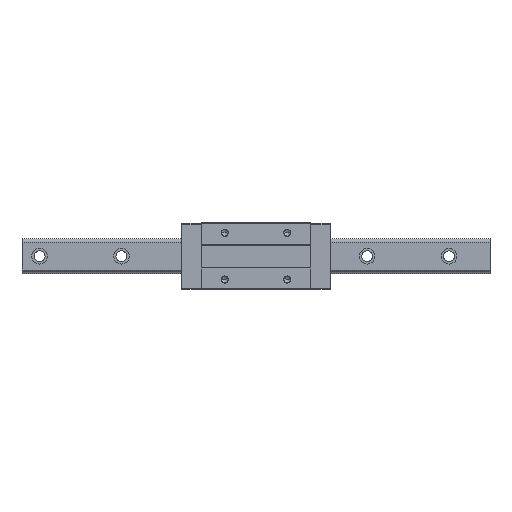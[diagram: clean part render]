
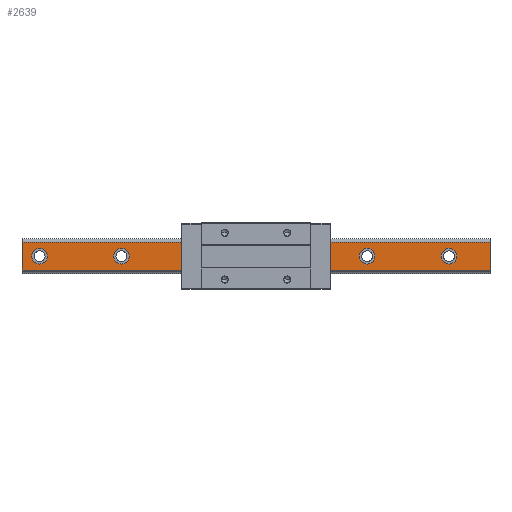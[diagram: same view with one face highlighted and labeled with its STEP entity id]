
A CAD part, top view. The second image highlights one B-rep face of the part: STEP entity #2639.
In plain terms, the highlighted planar face has unit normal (0, 0, 1).
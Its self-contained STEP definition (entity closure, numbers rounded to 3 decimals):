
#25 = DIRECTION ( 'NONE',  ( 0., 0., 1. ) ) ;
#60 = CIRCLE ( 'NONE', #4318, 10. ) ;
#85 = CARTESIAN_POINT ( 'NONE',  ( 237.5, 0., 32. ) ) ;
#196 = VERTEX_POINT ( 'NONE', #2939 ) ;
#198 = EDGE_LOOP ( 'NONE', ( #282, #3226 ) ) ;
#247 = CARTESIAN_POINT ( 'NONE',  ( 152.5, 0., 32. ) ) ;
#270 = DIRECTION ( 'NONE',  ( 1., 0., 0. ) ) ;
#281 = VERTEX_POINT ( 'NONE', #5468 ) ;
#282 = ORIENTED_EDGE ( 'NONE', *, *, #3718, .F. ) ;
#285 = DIRECTION ( 'NONE',  ( 0., 0., 1. ) ) ;
#303 = CARTESIAN_POINT ( 'NONE',  ( -67.5, 0., 32. ) ) ;
#356 = DIRECTION ( 'NONE',  ( 0., 0., 1. ) ) ;
#383 = CIRCLE ( 'NONE', #1736, 10. ) ;
#422 = DIRECTION ( 'NONE',  ( 1., 0., 0. ) ) ;
#458 = CIRCLE ( 'NONE', #3007, 10. ) ;
#496 = DIRECTION ( 'NONE',  ( 0., 0., 1. ) ) ;
#533 = ORIENTED_EDGE ( 'NONE', *, *, #5559, .F. ) ;
#583 = DIRECTION ( 'NONE',  ( -1., 0., 0. ) ) ;
#592 = ORIENTED_EDGE ( 'NONE', *, *, #5089, .F. ) ;
#594 = VECTOR ( 'NONE', #5570, 1000. ) ;
#596 = VECTOR ( 'NONE', #4591, 1000. ) ;
#639 = ORIENTED_EDGE ( 'NONE', *, *, #5210, .F. ) ;
#874 = FACE_BOUND ( 'NONE', #4302, .T. ) ;
#877 = CIRCLE ( 'NONE', #1602, 10. ) ;
#934 = CARTESIAN_POINT ( 'NONE',  ( -300., -17.696, 32. ) ) ;
#953 = ORIENTED_EDGE ( 'NONE', *, *, #4904, .F. ) ;
#1000 = LINE ( 'NONE', #4877, #1568 ) ;
#1030 = DIRECTION ( 'NONE',  ( 0., 0., 1. ) ) ;
#1053 = AXIS2_PLACEMENT_3D ( 'NONE', #3945, #3090, #2636 ) ;
#1065 = EDGE_LOOP ( 'NONE', ( #3330, #1221 ) ) ;
#1070 = VERTEX_POINT ( 'NONE', #5379 ) ;
#1090 = AXIS2_PLACEMENT_3D ( 'NONE', #5297, #496, #3010 ) ;
#1211 = EDGE_CURVE ( 'NONE', #4769, #3261, #1000, .T. ) ;
#1221 = ORIENTED_EDGE ( 'NONE', *, *, #5163, .F. ) ;
#1241 = CARTESIAN_POINT ( 'NONE',  ( 47.5, 0., 32. ) ) ;
#1280 = CIRCLE ( 'NONE', #1090, 10. ) ;
#1324 = CIRCLE ( 'NONE', #4500, 10. ) ;
#1340 = DIRECTION ( 'NONE',  ( 0., 0., 1. ) ) ;
#1349 = FACE_BOUND ( 'NONE', #1065, .T. ) ;
#1354 = CARTESIAN_POINT ( 'NONE',  ( 300., -17.696, 32. ) ) ;
#1417 = EDGE_CURVE ( 'NONE', #2874, #3123, #2010, .T. ) ;
#1439 = ORIENTED_EDGE ( 'NONE', *, *, #4974, .F. ) ;
#1451 = EDGE_CURVE ( 'NONE', #2355, #1070, #2099, .T. ) ;
#1458 = CARTESIAN_POINT ( 'NONE',  ( 247.5, 0., 32. ) ) ;
#1547 = CARTESIAN_POINT ( 'NONE',  ( 300., -17.696, 32. ) ) ;
#1550 = AXIS2_PLACEMENT_3D ( 'NONE', #2938, #356, #5074 ) ;
#1551 = DIRECTION ( 'NONE',  ( 1., 0., 0. ) ) ;
#1564 = CARTESIAN_POINT ( 'NONE',  ( 27.5, 0., 32. ) ) ;
#1568 = VECTOR ( 'NONE', #5344, 1000. ) ;
#1602 = AXIS2_PLACEMENT_3D ( 'NONE', #3936, #3049, #4848 ) ;
#1731 = EDGE_LOOP ( 'NONE', ( #3355, #1439, #533, #1806 ) ) ;
#1736 = AXIS2_PLACEMENT_3D ( 'NONE', #2582, #2684, #3924 ) ;
#1752 = FACE_BOUND ( 'NONE', #198, .T. ) ;
#1783 = VERTEX_POINT ( 'NONE', #3394 ) ;
#1806 = ORIENTED_EDGE ( 'NONE', *, *, #1211, .T. ) ;
#1834 = FACE_BOUND ( 'NONE', #2351, .T. ) ;
#1907 = AXIS2_PLACEMENT_3D ( 'NONE', #3712, #4574, #1940 ) ;
#1940 = DIRECTION ( 'NONE',  ( 1., 0., 0. ) ) ;
#2010 = CIRCLE ( 'NONE', #5203, 10. ) ;
#2064 = CARTESIAN_POINT ( 'NONE',  ( -267.5, 0., 32. ) ) ;
#2099 = CIRCLE ( 'NONE', #1550, 10. ) ;
#2136 = DIRECTION ( 'NONE',  ( 1., 0., 0. ) ) ;
#2199 = CARTESIAN_POINT ( 'NONE',  ( -172.5, 0., 32. ) ) ;
#2351 = EDGE_LOOP ( 'NONE', ( #4025, #639 ) ) ;
#2355 = VERTEX_POINT ( 'NONE', #3288 ) ;
#2364 = EDGE_LOOP ( 'NONE', ( #3576, #3955 ) ) ;
#2380 = DIRECTION ( 'NONE',  ( 0., 0., 1. ) ) ;
#2407 = VERTEX_POINT ( 'NONE', #247 ) ;
#2475 = CARTESIAN_POINT ( 'NONE',  ( -300., -17.696, 32. ) ) ;
#2582 = CARTESIAN_POINT ( 'NONE',  ( 142.5, 0., 32. ) ) ;
#2600 = CARTESIAN_POINT ( 'NONE',  ( 142.5, 0., 32. ) ) ;
#2617 = CARTESIAN_POINT ( 'NONE',  ( 300., 17.696, 32. ) ) ;
#2636 = DIRECTION ( 'NONE',  ( -1., 0., 0. ) ) ;
#2639 = ADVANCED_FACE ( 'NONE', ( #1834, #2707, #874, #1752, #1349, #3140, #4878 ), #4445, .F. ) ;
#2684 = DIRECTION ( 'NONE',  ( 0., 0., 1. ) ) ;
#2691 = CARTESIAN_POINT ( 'NONE',  ( -57.5, 0., 32. ) ) ;
#2707 = FACE_BOUND ( 'NONE', #2364, .T. ) ;
#2718 = VERTEX_POINT ( 'NONE', #85 ) ;
#2738 = LINE ( 'NONE', #4481, #4271 ) ;
#2744 = AXIS2_PLACEMENT_3D ( 'NONE', #2901, #285, #5006 ) ;
#2797 = VERTEX_POINT ( 'NONE', #934 ) ;
#2829 = ORIENTED_EDGE ( 'NONE', *, *, #3975, .F. ) ;
#2874 = VERTEX_POINT ( 'NONE', #1564 ) ;
#2897 = EDGE_CURVE ( 'NONE', #2978, #3689, #60, .T. ) ;
#2901 = CARTESIAN_POINT ( 'NONE',  ( 37.5, 0., 32. ) ) ;
#2906 = CARTESIAN_POINT ( 'NONE',  ( -300., 17.696, 32. ) ) ;
#2930 = CARTESIAN_POINT ( 'NONE',  ( -287.5, 0., 32. ) ) ;
#2938 = CARTESIAN_POINT ( 'NONE',  ( -172.5, 0., 32. ) ) ;
#2939 = CARTESIAN_POINT ( 'NONE',  ( -77.5, 0., 32. ) ) ;
#2978 = VERTEX_POINT ( 'NONE', #2064 ) ;
#3007 = AXIS2_PLACEMENT_3D ( 'NONE', #1458, #1030, #2136 ) ;
#3010 = DIRECTION ( 'NONE',  ( 1., 0., 0. ) ) ;
#3049 = DIRECTION ( 'NONE',  ( 0., 0., 1. ) ) ;
#3090 = DIRECTION ( 'NONE',  ( 0., 0., -1. ) ) ;
#3123 = VERTEX_POINT ( 'NONE', #1241 ) ;
#3140 = FACE_BOUND ( 'NONE', #5552, .T. ) ;
#3174 = ORIENTED_EDGE ( 'NONE', *, *, #3395, .F. ) ;
#3226 = ORIENTED_EDGE ( 'NONE', *, *, #1417, .F. ) ;
#3240 = EDGE_CURVE ( 'NONE', #3261, #2797, #3766, .T. ) ;
#3261 = VERTEX_POINT ( 'NONE', #2906 ) ;
#3281 = DIRECTION ( 'NONE',  ( 0., 0., 1. ) ) ;
#3288 = CARTESIAN_POINT ( 'NONE',  ( -182.5, 0., 32. ) ) ;
#3330 = ORIENTED_EDGE ( 'NONE', *, *, #5566, .F. ) ;
#3352 = CARTESIAN_POINT ( 'NONE',  ( -277.5, 0., 32. ) ) ;
#3355 = ORIENTED_EDGE ( 'NONE', *, *, #3240, .T. ) ;
#3394 = CARTESIAN_POINT ( 'NONE',  ( 257.5, 0., 32. ) ) ;
#3395 = EDGE_CURVE ( 'NONE', #3946, #196, #877, .T. ) ;
#3576 = ORIENTED_EDGE ( 'NONE', *, *, #5228, .F. ) ;
#3689 = VERTEX_POINT ( 'NONE', #2930 ) ;
#3707 = CARTESIAN_POINT ( 'NONE',  ( 37.5, 0., 32. ) ) ;
#3712 = CARTESIAN_POINT ( 'NONE',  ( 247.5, 0., 32. ) ) ;
#3718 = EDGE_CURVE ( 'NONE', #3123, #2874, #3761, .T. ) ;
#3761 = CIRCLE ( 'NONE', #2744, 10. ) ;
#3766 = LINE ( 'NONE', #2475, #594 ) ;
#3924 = DIRECTION ( 'NONE',  ( 1., 0., 0. ) ) ;
#3936 = CARTESIAN_POINT ( 'NONE',  ( -67.5, 0., 32. ) ) ;
#3945 = CARTESIAN_POINT ( 'NONE',  ( 300., -17.696, 32. ) ) ;
#3946 = VERTEX_POINT ( 'NONE', #2691 ) ;
#3955 = ORIENTED_EDGE ( 'NONE', *, *, #1451, .F. ) ;
#3975 = EDGE_CURVE ( 'NONE', #1783, #2718, #458, .T. ) ;
#4025 = ORIENTED_EDGE ( 'NONE', *, *, #2897, .F. ) ;
#4194 = DIRECTION ( 'NONE',  ( 0., 0., 1. ) ) ;
#4271 = VECTOR ( 'NONE', #583, 1000. ) ;
#4302 = EDGE_LOOP ( 'NONE', ( #3174, #592 ) ) ;
#4318 = AXIS2_PLACEMENT_3D ( 'NONE', #3352, #2380, #4995 ) ;
#4445 = PLANE ( 'NONE',  #1053 ) ;
#4456 = AXIS2_PLACEMENT_3D ( 'NONE', #303, #4194, #270 ) ;
#4481 = CARTESIAN_POINT ( 'NONE',  ( 300., -17.696, 32. ) ) ;
#4500 = AXIS2_PLACEMENT_3D ( 'NONE', #2600, #1340, #5192 ) ;
#4574 = DIRECTION ( 'NONE',  ( 0., 0., 1. ) ) ;
#4591 = DIRECTION ( 'NONE',  ( 0., -1., 0. ) ) ;
#4702 = VERTEX_POINT ( 'NONE', #1354 ) ;
#4769 = VERTEX_POINT ( 'NONE', #2617 ) ;
#4848 = DIRECTION ( 'NONE',  ( 1., 0., 0. ) ) ;
#4877 = CARTESIAN_POINT ( 'NONE',  ( 300., 17.696, 32. ) ) ;
#4878 = FACE_OUTER_BOUND ( 'NONE', #1731, .T. ) ;
#4900 = CIRCLE ( 'NONE', #1907, 10. ) ;
#4904 = EDGE_CURVE ( 'NONE', #2718, #1783, #4900, .T. ) ;
#4910 = AXIS2_PLACEMENT_3D ( 'NONE', #2199, #25, #422 ) ;
#4974 = EDGE_CURVE ( 'NONE', #4702, #2797, #2738, .T. ) ;
#4995 = DIRECTION ( 'NONE',  ( 1., 0., 0. ) ) ;
#5006 = DIRECTION ( 'NONE',  ( 1., 0., 0. ) ) ;
#5074 = DIRECTION ( 'NONE',  ( 1., 0., 0. ) ) ;
#5089 = EDGE_CURVE ( 'NONE', #196, #3946, #5276, .T. ) ;
#5163 = EDGE_CURVE ( 'NONE', #281, #2407, #383, .T. ) ;
#5192 = DIRECTION ( 'NONE',  ( 1., 0., 0. ) ) ;
#5203 = AXIS2_PLACEMENT_3D ( 'NONE', #3707, #3281, #1551 ) ;
#5210 = EDGE_CURVE ( 'NONE', #3689, #2978, #1280, .T. ) ;
#5228 = EDGE_CURVE ( 'NONE', #1070, #2355, #5441, .T. ) ;
#5276 = CIRCLE ( 'NONE', #4456, 10. ) ;
#5297 = CARTESIAN_POINT ( 'NONE',  ( -277.5, 0., 32. ) ) ;
#5344 = DIRECTION ( 'NONE',  ( -1., 0., 0. ) ) ;
#5379 = CARTESIAN_POINT ( 'NONE',  ( -162.5, 0., 32. ) ) ;
#5424 = LINE ( 'NONE', #1547, #596 ) ;
#5441 = CIRCLE ( 'NONE', #4910, 10. ) ;
#5468 = CARTESIAN_POINT ( 'NONE',  ( 132.5, 0., 32. ) ) ;
#5552 = EDGE_LOOP ( 'NONE', ( #2829, #953 ) ) ;
#5559 = EDGE_CURVE ( 'NONE', #4769, #4702, #5424, .T. ) ;
#5566 = EDGE_CURVE ( 'NONE', #2407, #281, #1324, .T. ) ;
#5570 = DIRECTION ( 'NONE',  ( 0., -1., 0. ) ) ;
